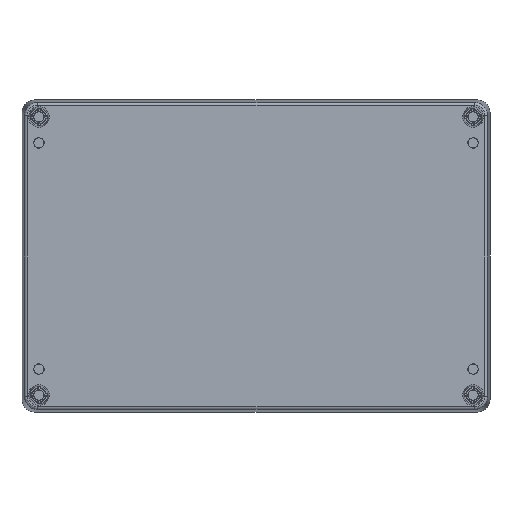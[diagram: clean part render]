
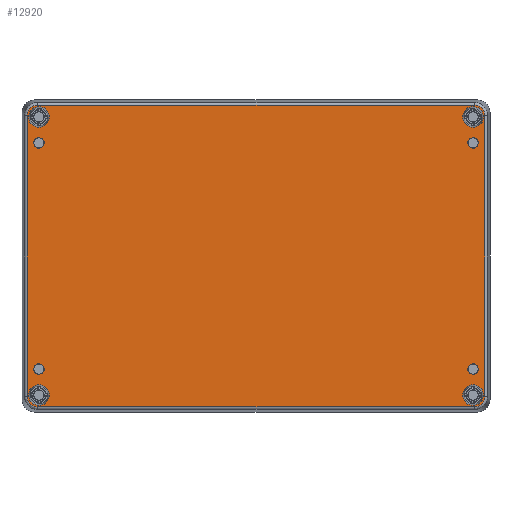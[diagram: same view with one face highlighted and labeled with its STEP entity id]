
A CAD part, front view. The second image highlights one B-rep face of the part: STEP entity #12920.
In plain terms, the highlighted planar face has unit normal (0, -1, 0) as drawn and (0, 0, -1) by its records, which use the part's own axes.
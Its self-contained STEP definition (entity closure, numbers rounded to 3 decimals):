
#1000=ELLIPSE('',#13765,4.001,4.);
#1001=ELLIPSE('',#13766,4.001,4.);
#1002=ELLIPSE('',#13767,4.001,4.);
#1003=ELLIPSE('',#13768,4.001,4.);
#1088=FACE_BOUND('',#2065,.T.);
#1089=FACE_BOUND('',#2066,.T.);
#1090=FACE_BOUND('',#2067,.T.);
#1091=FACE_BOUND('',#2068,.T.);
#1092=FACE_BOUND('',#2069,.T.);
#1093=FACE_BOUND('',#2070,.T.);
#1094=FACE_BOUND('',#2071,.T.);
#1095=FACE_BOUND('',#2072,.T.);
#1239=FACE_OUTER_BOUND('',#2064,.T.);
#2064=EDGE_LOOP('',(#8695,#8696,#8697,#8698,#8699,#8700,#8701,#8702));
#2065=EDGE_LOOP('',(#8703));
#2066=EDGE_LOOP('',(#8704));
#2067=EDGE_LOOP('',(#8705));
#2068=EDGE_LOOP('',(#8706));
#2069=EDGE_LOOP('',(#8707));
#2070=EDGE_LOOP('',(#8708));
#2071=EDGE_LOOP('',(#8709));
#2072=EDGE_LOOP('',(#8710));
#3044=CIRCLE('',#13769,4.);
#3045=CIRCLE('',#13770,4.);
#3046=CIRCLE('',#13771,4.);
#3047=CIRCLE('',#13772,4.);
#3048=CIRCLE('',#13773,2.);
#3049=CIRCLE('',#13774,2.);
#3050=CIRCLE('',#13775,2.);
#3051=CIRCLE('',#13776,2.);
#3757=LINE('',#19291,#4581);
#3758=LINE('',#19295,#4582);
#3759=LINE('',#19299,#4583);
#3760=LINE('',#19303,#4584);
#4581=VECTOR('',#15351,168.063);
#4582=VECTOR('',#15354,108.063);
#4583=VECTOR('',#15357,168.063);
#4584=VECTOR('',#15360,108.063);
#5421=VERTEX_POINT('',#19289);
#5422=VERTEX_POINT('',#19290);
#5423=VERTEX_POINT('',#19292);
#5424=VERTEX_POINT('',#19294);
#5425=VERTEX_POINT('',#19296);
#5426=VERTEX_POINT('',#19298);
#5427=VERTEX_POINT('',#19300);
#5428=VERTEX_POINT('',#19302);
#5429=VERTEX_POINT('',#19305);
#5430=VERTEX_POINT('',#19307);
#5431=VERTEX_POINT('',#19309);
#5432=VERTEX_POINT('',#19311);
#5433=VERTEX_POINT('',#19313);
#5434=VERTEX_POINT('',#19315);
#5435=VERTEX_POINT('',#19317);
#5436=VERTEX_POINT('',#19319);
#6714=EDGE_CURVE('',#5421,#5422,#3757,.T.);
#6715=EDGE_CURVE('',#5423,#5421,#1000,.T.);
#6716=EDGE_CURVE('',#5424,#5423,#3758,.T.);
#6717=EDGE_CURVE('',#5425,#5424,#1001,.T.);
#6718=EDGE_CURVE('',#5426,#5425,#3759,.T.);
#6719=EDGE_CURVE('',#5427,#5426,#1002,.T.);
#6720=EDGE_CURVE('',#5428,#5427,#3760,.T.);
#6721=EDGE_CURVE('',#5422,#5428,#1003,.T.);
#6722=EDGE_CURVE('',#5429,#5429,#3044,.T.);
#6723=EDGE_CURVE('',#5430,#5430,#3045,.T.);
#6724=EDGE_CURVE('',#5431,#5431,#3046,.T.);
#6725=EDGE_CURVE('',#5432,#5432,#3047,.T.);
#6726=EDGE_CURVE('',#5433,#5433,#3048,.T.);
#6727=EDGE_CURVE('',#5434,#5434,#3049,.T.);
#6728=EDGE_CURVE('',#5435,#5435,#3050,.T.);
#6729=EDGE_CURVE('',#5436,#5436,#3051,.T.);
#8695=ORIENTED_EDGE('',*,*,#6714,.F.);
#8696=ORIENTED_EDGE('',*,*,#6715,.F.);
#8697=ORIENTED_EDGE('',*,*,#6716,.F.);
#8698=ORIENTED_EDGE('',*,*,#6717,.F.);
#8699=ORIENTED_EDGE('',*,*,#6718,.F.);
#8700=ORIENTED_EDGE('',*,*,#6719,.F.);
#8701=ORIENTED_EDGE('',*,*,#6720,.F.);
#8702=ORIENTED_EDGE('',*,*,#6721,.F.);
#8703=ORIENTED_EDGE('',*,*,#6722,.T.);
#8704=ORIENTED_EDGE('',*,*,#6723,.T.);
#8705=ORIENTED_EDGE('',*,*,#6724,.T.);
#8706=ORIENTED_EDGE('',*,*,#6725,.T.);
#8707=ORIENTED_EDGE('',*,*,#6726,.T.);
#8708=ORIENTED_EDGE('',*,*,#6727,.T.);
#8709=ORIENTED_EDGE('',*,*,#6728,.T.);
#8710=ORIENTED_EDGE('',*,*,#6729,.T.);
#12637=PLANE('',#13764);
#12920=ADVANCED_FACE('',(#1239,#1088,#1089,#1090,#1091,#1092,#1093,#1094,
#1095),#12637,.F.);
#13764=AXIS2_PLACEMENT_3D('',#19288,#15349,#15350);
#13765=AXIS2_PLACEMENT_3D('',#19293,#15352,#15353);
#13766=AXIS2_PLACEMENT_3D('',#19297,#15355,#15356);
#13767=AXIS2_PLACEMENT_3D('',#19301,#15358,#15359);
#13768=AXIS2_PLACEMENT_3D('',#19304,#15361,#15362);
#13769=AXIS2_PLACEMENT_3D('',#19306,#15363,#15364);
#13770=AXIS2_PLACEMENT_3D('',#19308,#15365,#15366);
#13771=AXIS2_PLACEMENT_3D('',#19310,#15367,#15368);
#13772=AXIS2_PLACEMENT_3D('',#19312,#15369,#15370);
#13773=AXIS2_PLACEMENT_3D('',#19314,#15371,#15372);
#13774=AXIS2_PLACEMENT_3D('',#19316,#15373,#15374);
#13775=AXIS2_PLACEMENT_3D('',#19318,#15375,#15376);
#13776=AXIS2_PLACEMENT_3D('',#19320,#15377,#15378);
#15349=DIRECTION('center_axis',(0.,0.,1.));
#15350=DIRECTION('ref_axis',(1.,0.,0.));
#15351=DIRECTION('',(1.,0.,0.));
#15352=DIRECTION('center_axis',(0.,0.,1.));
#15353=DIRECTION('ref_axis',(-0.707,-0.707,0.));
#15354=DIRECTION('',(0.,-1.,0.));
#15355=DIRECTION('center_axis',(0.,0.,1.));
#15356=DIRECTION('ref_axis',(-0.707,0.707,0.));
#15357=DIRECTION('',(-1.,0.,0.));
#15358=DIRECTION('center_axis',(0.,0.,1.));
#15359=DIRECTION('ref_axis',(0.707,0.707,0.));
#15360=DIRECTION('',(0.,1.,0.));
#15361=DIRECTION('center_axis',(0.,0.,1.));
#15362=DIRECTION('ref_axis',(0.707,-0.707,0.));
#15363=DIRECTION('center_axis',(0.,0.,1.));
#15364=DIRECTION('ref_axis',(1.,0.,0.));
#15365=DIRECTION('center_axis',(0.,0.,1.));
#15366=DIRECTION('ref_axis',(1.,0.,0.));
#15367=DIRECTION('center_axis',(0.,0.,1.));
#15368=DIRECTION('ref_axis',(1.,0.,0.));
#15369=DIRECTION('center_axis',(0.,0.,1.));
#15370=DIRECTION('ref_axis',(1.,0.,0.));
#15371=DIRECTION('center_axis',(0.,0.,1.));
#15372=DIRECTION('ref_axis',(1.,0.,0.));
#15373=DIRECTION('center_axis',(0.,0.,1.));
#15374=DIRECTION('ref_axis',(1.,0.,0.));
#15375=DIRECTION('center_axis',(0.,0.,1.));
#15376=DIRECTION('ref_axis',(1.,0.,0.));
#15377=DIRECTION('center_axis',(0.,0.,1.));
#15378=DIRECTION('ref_axis',(1.,0.,0.));
#19288=CARTESIAN_POINT('Origin',(0.,0.,-75.));
#19289=CARTESIAN_POINT('',(-84.032,-58.031,-75.));
#19290=CARTESIAN_POINT('',(84.032,-58.031,-75.));
#19291=CARTESIAN_POINT('',(-45.,-58.031,-75.));
#19292=CARTESIAN_POINT('',(-88.031,-54.032,-75.));
#19293=CARTESIAN_POINT('Origin',(-84.031,-54.031,-75.));
#19294=CARTESIAN_POINT('',(-88.031,54.032,-75.));
#19295=CARTESIAN_POINT('',(-88.031,30.,-75.));
#19296=CARTESIAN_POINT('',(-84.032,58.031,-75.));
#19297=CARTESIAN_POINT('Origin',(-84.031,54.031,-75.));
#19298=CARTESIAN_POINT('',(84.032,58.031,-75.));
#19299=CARTESIAN_POINT('',(45.,58.031,-75.));
#19300=CARTESIAN_POINT('',(88.031,54.032,-75.));
#19301=CARTESIAN_POINT('Origin',(84.031,54.031,-75.));
#19302=CARTESIAN_POINT('',(88.031,-54.032,-75.));
#19303=CARTESIAN_POINT('',(88.031,-30.,-75.));
#19304=CARTESIAN_POINT('Origin',(84.031,-54.031,-75.));
#19305=CARTESIAN_POINT('',(-87.5,53.5,-75.));
#19306=CARTESIAN_POINT('Origin',(-83.5,53.5,-75.));
#19307=CARTESIAN_POINT('',(79.5,53.5,-75.));
#19308=CARTESIAN_POINT('Origin',(83.5,53.5,-75.));
#19309=CARTESIAN_POINT('',(79.5,-53.5,-75.));
#19310=CARTESIAN_POINT('Origin',(83.5,-53.5,-75.));
#19311=CARTESIAN_POINT('',(-87.5,-53.5,-75.));
#19312=CARTESIAN_POINT('Origin',(-83.5,-53.5,-75.));
#19313=CARTESIAN_POINT('',(81.5,43.5,-75.));
#19314=CARTESIAN_POINT('Origin',(83.5,43.5,-75.));
#19315=CARTESIAN_POINT('',(-85.5,-43.5,-75.));
#19316=CARTESIAN_POINT('Origin',(-83.5,-43.5,-75.));
#19317=CARTESIAN_POINT('',(-85.5,43.5,-75.));
#19318=CARTESIAN_POINT('Origin',(-83.5,43.5,-75.));
#19319=CARTESIAN_POINT('',(81.5,-43.5,-75.));
#19320=CARTESIAN_POINT('Origin',(83.5,-43.5,-75.));
